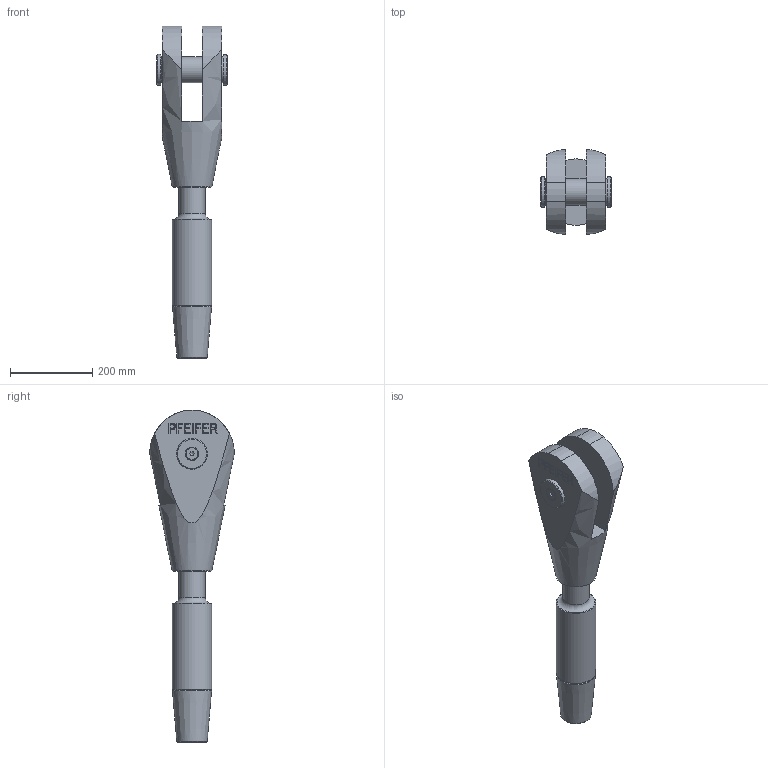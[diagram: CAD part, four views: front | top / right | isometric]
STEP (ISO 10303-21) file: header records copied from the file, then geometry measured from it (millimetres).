
FILE_DESCRIPTION(/* description */ (''),/* implementation_level */ '2;1');
FILE_NAME(/* name */ 'G:\Engineering\700 CAD\Internet-PX-1-step-igs-dxf\520-GAK-ADA-Arbeitsdateien\520-064-GAK-ADA.stp',/* time_stamp */ '2020-07-03T13:12:30+02:00',/* author */ ('schwarz'),/* organization */ (''),/* preprocessor_version */ 'ST-DEVELOPER v16.1',/* originating_system */ 'Autodesk Inventor 2016',/* authorisation */ '');
FILE_SCHEMA (('AUTOMOTIVE_DESIGN { 1 0 10303 214 3 1 1 }'));
Length unit declared in the file: centimetre
Products named in the file (1): 520-064-GAK-ADA-Kunde
Bounding box: 172.3 x 206.41 x 808.19 mm (x, y, z)
Volume: 7961694.4 mm3; surface area: 474045.9 mm2
Topology: 2 solids, 4 shells, 192 faces, 494 edges, 327 vertices
Faces by surface type: plane 138, bspline 21, cylinder 18, cone 14, torus 1
Full cylindrical faces by diameter (mm): 13.835 x1, 16 x1, 17.5 x1, 29.01 x1, 64 x2, 66.5 x1, 67 x2, 75 x2, 96 x1
Entity records: 5903 total; most frequent: CARTESIAN_POINT 1290, ORIENTED_EDGE 912, DIRECTION 792, EDGE_CURVE 456, LINE 348, VECTOR 348, VERTEX_POINT 316, EDGE_LOOP 242
